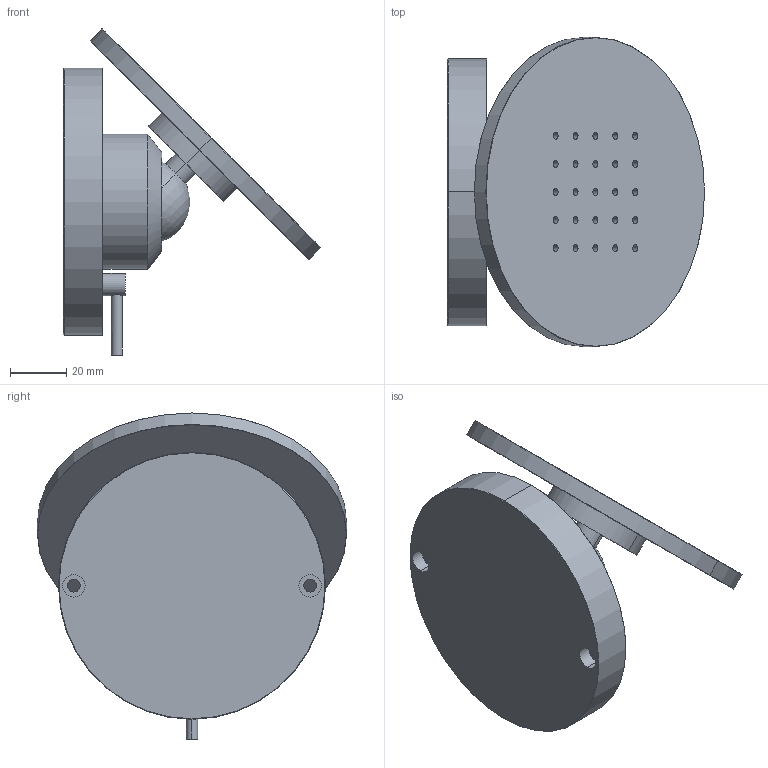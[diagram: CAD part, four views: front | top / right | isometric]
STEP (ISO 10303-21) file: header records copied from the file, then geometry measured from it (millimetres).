
FILE_DESCRIPTION (( 'STEP AP214' ), '1' );
FILE_NAME ('PR-SD93（45度位置）.STEP', '2023-01-07T01:13:55', ( '' ), ( '' ), 'SwSTEP 2.0', 'SolidWorks 2017', '' );
FILE_SCHEMA (( 'AUTOMOTIVE_DESIGN' ));
Length unit declared in the file: millimetre
Products named in the file (3): PR-SD93（45度位置）; PR-SD93-2; PR-SD93-3
Assembly tree (2 placements, depth 2):
  PR-SD93（45度位置）
    PR-SD93-3
    PR-SD93-2
Bounding box: 91.45 x 110 x 115.95 mm (x, y, z)
Volume: 202603.4 mm3; surface area: 48904 mm2
Topology: 2 solids, 2 shells, 428 faces, 1178 edges, 778 vertices
Faces by surface type: plane 254, bspline 84, cylinder 76, cone 10, sphere 4
Entity records: 17840 total; most frequent: CARTESIAN_POINT 6685, ORIENTED_EDGE 2336, DIRECTION 1874, EDGE_CURVE 1168, LINE 816, VECTOR 816, VERTEX_POINT 772, AXIS2_PLACEMENT_3D 529
